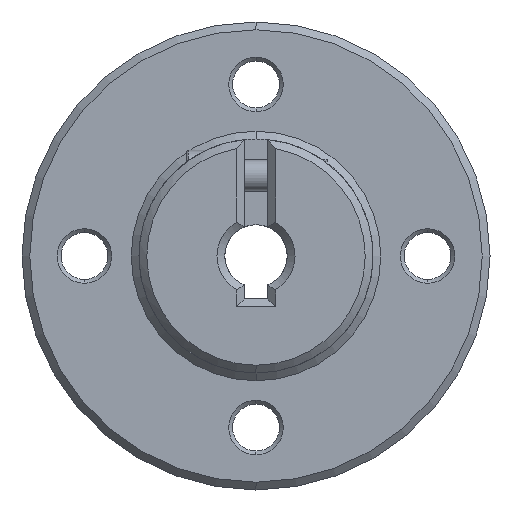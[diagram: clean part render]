
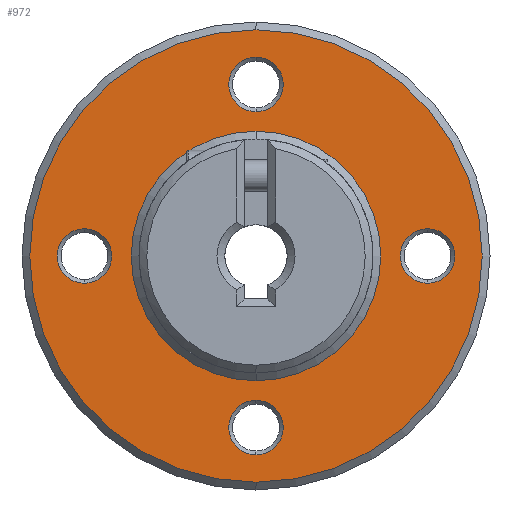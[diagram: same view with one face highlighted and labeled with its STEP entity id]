
A CAD part, left-side view. The second image highlights one B-rep face of the part: STEP entity #972.
In plain terms, the highlighted planar face has unit normal (-1, 0, 0).
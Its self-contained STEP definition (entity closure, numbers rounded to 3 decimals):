
#19 = CIRCLE ( 'NONE', #1738, 1.75 ) ;
#32 = EDGE_CURVE ( 'NONE', #3422, #189, #2657, .T. ) ;
#33 = VERTEX_POINT ( 'NONE', #3185 ) ;
#78 = EDGE_LOOP ( 'NONE', ( #2037, #2679 ) ) ;
#115 = CIRCLE ( 'NONE', #633, 8. ) ;
#170 = DIRECTION ( 'NONE',  ( 0., 0., -1. ) ) ;
#184 = VERTEX_POINT ( 'NONE', #2768 ) ;
#189 = VERTEX_POINT ( 'NONE', #384 ) ;
#191 = DIRECTION ( 'NONE',  ( 0., 0., -1. ) ) ;
#231 = EDGE_LOOP ( 'NONE', ( #3202, #2901 ) ) ;
#265 = EDGE_CURVE ( 'NONE', #1680, #906, #403, .T. ) ;
#290 = AXIS2_PLACEMENT_3D ( 'NONE', #1548, #2292, #2618 ) ;
#299 = EDGE_LOOP ( 'NONE', ( #656, #2594 ) ) ;
#305 = CIRCLE ( 'NONE', #1265, 14.5 ) ;
#371 = FACE_OUTER_BOUND ( 'NONE', #78, .T. ) ;
#384 = CARTESIAN_POINT ( 'NONE',  ( 18., -11., 1.75 ) ) ;
#403 = CIRCLE ( 'NONE', #1316, 1.75 ) ;
#419 = EDGE_CURVE ( 'NONE', #33, #712, #1810, .T. ) ;
#441 = CARTESIAN_POINT ( 'NONE',  ( 18., 0., 0. ) ) ;
#443 = DIRECTION ( 'NONE',  ( -1., 0., 0. ) ) ;
#466 = DIRECTION ( 'NONE',  ( 0., 0., -1. ) ) ;
#496 = CARTESIAN_POINT ( 'NONE',  ( 18., 0., 12.75 ) ) ;
#503 = EDGE_CURVE ( 'NONE', #712, #33, #305, .T. ) ;
#512 = AXIS2_PLACEMENT_3D ( 'NONE', #2118, #2133, #2950 ) ;
#519 = DIRECTION ( 'NONE',  ( 1., 0., 0. ) ) ;
#633 = AXIS2_PLACEMENT_3D ( 'NONE', #441, #739, #170 ) ;
#656 = ORIENTED_EDGE ( 'NONE', *, *, #2293, .T. ) ;
#665 = DIRECTION ( 'NONE',  ( 0., 0., -1. ) ) ;
#712 = VERTEX_POINT ( 'NONE', #1412 ) ;
#719 = DIRECTION ( 'NONE',  ( 1., 0., 0. ) ) ;
#739 = DIRECTION ( 'NONE',  ( 1., 0., 0. ) ) ;
#751 = AXIS2_PLACEMENT_3D ( 'NONE', #1831, #1557, #1522 ) ;
#758 = DIRECTION ( 'NONE',  ( 0., 0., -1. ) ) ;
#831 = DIRECTION ( 'NONE',  ( 0., 0., -1. ) ) ;
#905 = AXIS2_PLACEMENT_3D ( 'NONE', #2831, #719, #2070 ) ;
#906 = VERTEX_POINT ( 'NONE', #496 ) ;
#944 = DIRECTION ( 'NONE',  ( -1., 0., 0. ) ) ;
#972 = ADVANCED_FACE ( 'NONE', ( #3450, #1041, #2112, #3191, #2766, #371 ), #1169, .F. ) ;
#996 = DIRECTION ( 'NONE',  ( 1., 0., 0. ) ) ;
#1041 = FACE_BOUND ( 'NONE', #231, .T. ) ;
#1070 = VERTEX_POINT ( 'NONE', #1922 ) ;
#1134 = CARTESIAN_POINT ( 'NONE',  ( 18., 0., 0. ) ) ;
#1148 = ORIENTED_EDGE ( 'NONE', *, *, #1611, .T. ) ;
#1163 = VERTEX_POINT ( 'NONE', #2586 ) ;
#1169 = PLANE ( 'NONE',  #2106 ) ;
#1243 = CIRCLE ( 'NONE', #3095, 1.75 ) ;
#1265 = AXIS2_PLACEMENT_3D ( 'NONE', #2054, #944, #1276 ) ;
#1276 = DIRECTION ( 'NONE',  ( 0., 0., -1. ) ) ;
#1286 = CARTESIAN_POINT ( 'NONE',  ( 18., 11., 0. ) ) ;
#1316 = AXIS2_PLACEMENT_3D ( 'NONE', #2592, #1703, #1449 ) ;
#1392 = ORIENTED_EDGE ( 'NONE', *, *, #2175, .T. ) ;
#1412 = CARTESIAN_POINT ( 'NONE',  ( 18., 0., -14.5 ) ) ;
#1438 = CARTESIAN_POINT ( 'NONE',  ( 18., 11., 1.75 ) ) ;
#1449 = DIRECTION ( 'NONE',  ( 0., 0., -1. ) ) ;
#1461 = DIRECTION ( 'NONE',  ( 0., 0., -1. ) ) ;
#1522 = DIRECTION ( 'NONE',  ( 0., 0., -1. ) ) ;
#1529 = VERTEX_POINT ( 'NONE', #2458 ) ;
#1548 = CARTESIAN_POINT ( 'NONE',  ( 18., 11., 0. ) ) ;
#1557 = DIRECTION ( 'NONE',  ( 1., 0., 0. ) ) ;
#1611 = EDGE_CURVE ( 'NONE', #1070, #1529, #115, .T. ) ;
#1641 = EDGE_CURVE ( 'NONE', #1981, #184, #19, .T. ) ;
#1656 = EDGE_CURVE ( 'NONE', #1529, #1070, #2942, .T. ) ;
#1680 = VERTEX_POINT ( 'NONE', #3017 ) ;
#1701 = DIRECTION ( 'NONE',  ( 1., 0., 0. ) ) ;
#1703 = DIRECTION ( 'NONE',  ( 1., 0., 0. ) ) ;
#1721 = CIRCLE ( 'NONE', #512, 1.75 ) ;
#1738 = AXIS2_PLACEMENT_3D ( 'NONE', #3356, #996, #191 ) ;
#1793 = CIRCLE ( 'NONE', #290, 1.75 ) ;
#1810 = CIRCLE ( 'NONE', #2259, 14.5 ) ;
#1826 = EDGE_LOOP ( 'NONE', ( #1392, #1991 ) ) ;
#1831 = CARTESIAN_POINT ( 'NONE',  ( 18., -11., 0. ) ) ;
#1922 = CARTESIAN_POINT ( 'NONE',  ( 18., 0., 8. ) ) ;
#1945 = ORIENTED_EDGE ( 'NONE', *, *, #2914, .T. ) ;
#1981 = VERTEX_POINT ( 'NONE', #2155 ) ;
#1991 = ORIENTED_EDGE ( 'NONE', *, *, #32, .T. ) ;
#2021 = DIRECTION ( 'NONE',  ( 1., 0., 0. ) ) ;
#2037 = ORIENTED_EDGE ( 'NONE', *, *, #503, .T. ) ;
#2042 = CARTESIAN_POINT ( 'NONE',  ( 18., -11., 0. ) ) ;
#2054 = CARTESIAN_POINT ( 'NONE',  ( 18., 0., 0. ) ) ;
#2070 = DIRECTION ( 'NONE',  ( 0., 0., -1. ) ) ;
#2074 = AXIS2_PLACEMENT_3D ( 'NONE', #2042, #2021, #466 ) ;
#2106 = AXIS2_PLACEMENT_3D ( 'NONE', #1134, #1701, #1461 ) ;
#2112 = FACE_BOUND ( 'NONE', #3076, .T. ) ;
#2118 = CARTESIAN_POINT ( 'NONE',  ( 18., 0., 11. ) ) ;
#2133 = DIRECTION ( 'NONE',  ( 1., 0., 0. ) ) ;
#2142 = CARTESIAN_POINT ( 'NONE',  ( 18., -11., -1.75 ) ) ;
#2155 = CARTESIAN_POINT ( 'NONE',  ( 18., 0., -9.25 ) ) ;
#2175 = EDGE_CURVE ( 'NONE', #189, #3422, #3041, .T. ) ;
#2259 = AXIS2_PLACEMENT_3D ( 'NONE', #2569, #443, #665 ) ;
#2292 = DIRECTION ( 'NONE',  ( 1., 0., 0. ) ) ;
#2293 = EDGE_CURVE ( 'NONE', #906, #1680, #1721, .T. ) ;
#2343 = EDGE_CURVE ( 'NONE', #184, #1981, #1243, .T. ) ;
#2352 = DIRECTION ( 'NONE',  ( 1., 0., 0. ) ) ;
#2458 = CARTESIAN_POINT ( 'NONE',  ( 18., 0., -8. ) ) ;
#2569 = CARTESIAN_POINT ( 'NONE',  ( 18., 0., 0. ) ) ;
#2583 = VERTEX_POINT ( 'NONE', #1438 ) ;
#2586 = CARTESIAN_POINT ( 'NONE',  ( 18., 11., -1.75 ) ) ;
#2592 = CARTESIAN_POINT ( 'NONE',  ( 18., 0., 11. ) ) ;
#2594 = ORIENTED_EDGE ( 'NONE', *, *, #265, .T. ) ;
#2618 = DIRECTION ( 'NONE',  ( 0., 0., -1. ) ) ;
#2657 = CIRCLE ( 'NONE', #751, 1.75 ) ;
#2679 = ORIENTED_EDGE ( 'NONE', *, *, #419, .T. ) ;
#2722 = ORIENTED_EDGE ( 'NONE', *, *, #1656, .T. ) ;
#2766 = FACE_BOUND ( 'NONE', #3368, .T. ) ;
#2768 = CARTESIAN_POINT ( 'NONE',  ( 18., 0., -12.75 ) ) ;
#2806 = AXIS2_PLACEMENT_3D ( 'NONE', #1286, #2352, #758 ) ;
#2831 = CARTESIAN_POINT ( 'NONE',  ( 18., 0., 0. ) ) ;
#2849 = ORIENTED_EDGE ( 'NONE', *, *, #2921, .T. ) ;
#2901 = ORIENTED_EDGE ( 'NONE', *, *, #2343, .T. ) ;
#2914 = EDGE_CURVE ( 'NONE', #1163, #2583, #1793, .T. ) ;
#2921 = EDGE_CURVE ( 'NONE', #2583, #1163, #3098, .T. ) ;
#2942 = CIRCLE ( 'NONE', #905, 8. ) ;
#2950 = DIRECTION ( 'NONE',  ( 0., 0., -1. ) ) ;
#3017 = CARTESIAN_POINT ( 'NONE',  ( 18., 0., 9.25 ) ) ;
#3041 = CIRCLE ( 'NONE', #2074, 1.75 ) ;
#3076 = EDGE_LOOP ( 'NONE', ( #2849, #1945 ) ) ;
#3095 = AXIS2_PLACEMENT_3D ( 'NONE', #3457, #519, #831 ) ;
#3098 = CIRCLE ( 'NONE', #2806, 1.75 ) ;
#3185 = CARTESIAN_POINT ( 'NONE',  ( 18., 0., 14.5 ) ) ;
#3191 = FACE_BOUND ( 'NONE', #299, .T. ) ;
#3202 = ORIENTED_EDGE ( 'NONE', *, *, #1641, .T. ) ;
#3356 = CARTESIAN_POINT ( 'NONE',  ( 18., 0., -11. ) ) ;
#3368 = EDGE_LOOP ( 'NONE', ( #2722, #1148 ) ) ;
#3422 = VERTEX_POINT ( 'NONE', #2142 ) ;
#3450 = FACE_BOUND ( 'NONE', #1826, .T. ) ;
#3457 = CARTESIAN_POINT ( 'NONE',  ( 18., 0., -11. ) ) ;
